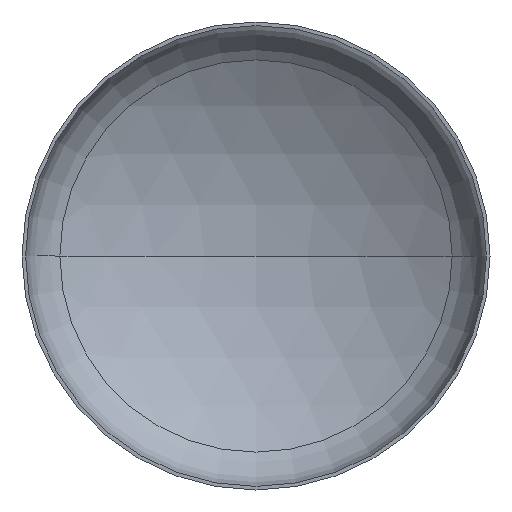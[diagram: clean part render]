
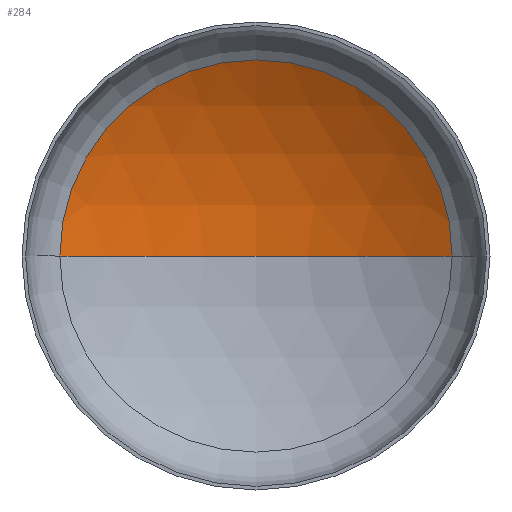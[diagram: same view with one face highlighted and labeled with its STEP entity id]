
A CAD part, front view. The second image highlights one B-rep face of the part: STEP entity #284.
In plain terms, the highlighted spherical face has radius 2080 mm.
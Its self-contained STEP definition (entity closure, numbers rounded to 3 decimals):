
#3 = EDGE_LOOP ( 'NONE', ( #7, #197, #110 ) ) ;
#5 = AXIS2_PLACEMENT_3D ( 'NONE', #401, #223, #121 ) ;
#7 = ORIENTED_EDGE ( 'NONE', *, *, #350, .F. ) ;
#10 = AXIS2_PLACEMENT_3D ( 'NONE', #169, #102, #146 ) ;
#13 = VERTEX_POINT ( 'NONE', #258 ) ;
#18 = AXIS2_PLACEMENT_3D ( 'NONE', #376, #179, #140 ) ;
#20 = DIRECTION ( 'NONE',  ( 1., 0., 0. ) ) ;
#29 = DIRECTION ( 'NONE',  ( 0., -1., 0. ) ) ;
#38 = CARTESIAN_POINT ( 'NONE',  ( 0., 400.734, 0. ) ) ;
#46 = AXIS2_PLACEMENT_3D ( 'NONE', #38, #29, #20 ) ;
#74 = VERTEX_POINT ( 'NONE', #239 ) ;
#102 = DIRECTION ( 'NONE',  ( 0., 0., 1. ) ) ;
#104 = EDGE_CURVE ( 'NONE', #74, #115, #260, .T. ) ;
#110 = ORIENTED_EDGE ( 'NONE', *, *, #104, .T. ) ;
#115 = VERTEX_POINT ( 'NONE', #240 ) ;
#121 = DIRECTION ( 'NONE',  ( -1., 0., 0. ) ) ;
#140 = DIRECTION ( 'NONE',  ( -1., 0., 0. ) ) ;
#146 = DIRECTION ( 'NONE',  ( 1., 0., 0. ) ) ;
#158 = CIRCLE ( 'NONE', #10, 2080. ) ;
#166 = FACE_OUTER_BOUND ( 'NONE', #3, .T. ) ;
#169 = CARTESIAN_POINT ( 'NONE',  ( 0., -1371.084, 0. ) ) ;
#179 = DIRECTION ( 'NONE',  ( 0., 0., -1. ) ) ;
#197 = ORIENTED_EDGE ( 'NONE', *, *, #341, .T. ) ;
#219 = CIRCLE ( 'NONE', #5, 2080. ) ;
#223 = DIRECTION ( 'NONE',  ( 0., 0., -1. ) ) ;
#239 = CARTESIAN_POINT ( 'NONE',  ( 1089.524, 400.734, 0. ) ) ;
#240 = CARTESIAN_POINT ( 'NONE',  ( -1089.524, 400.734, 0. ) ) ;
#247 = SPHERICAL_SURFACE ( 'NONE', #18, 2080. ) ;
#258 = CARTESIAN_POINT ( 'NONE',  ( 0., 708.916, 0. ) ) ;
#260 = CIRCLE ( 'NONE', #46, 1089.524 ) ;
#284 = ADVANCED_FACE ( 'NONE', ( #166 ), #247, .F. ) ;
#341 = EDGE_CURVE ( 'NONE', #13, #74, #219, .T. ) ;
#350 = EDGE_CURVE ( 'NONE', #13, #115, #158, .T. ) ;
#376 = CARTESIAN_POINT ( 'NONE',  ( 0., -1371.084, 0. ) ) ;
#401 = CARTESIAN_POINT ( 'NONE',  ( 0., -1371.084, 0. ) ) ;
